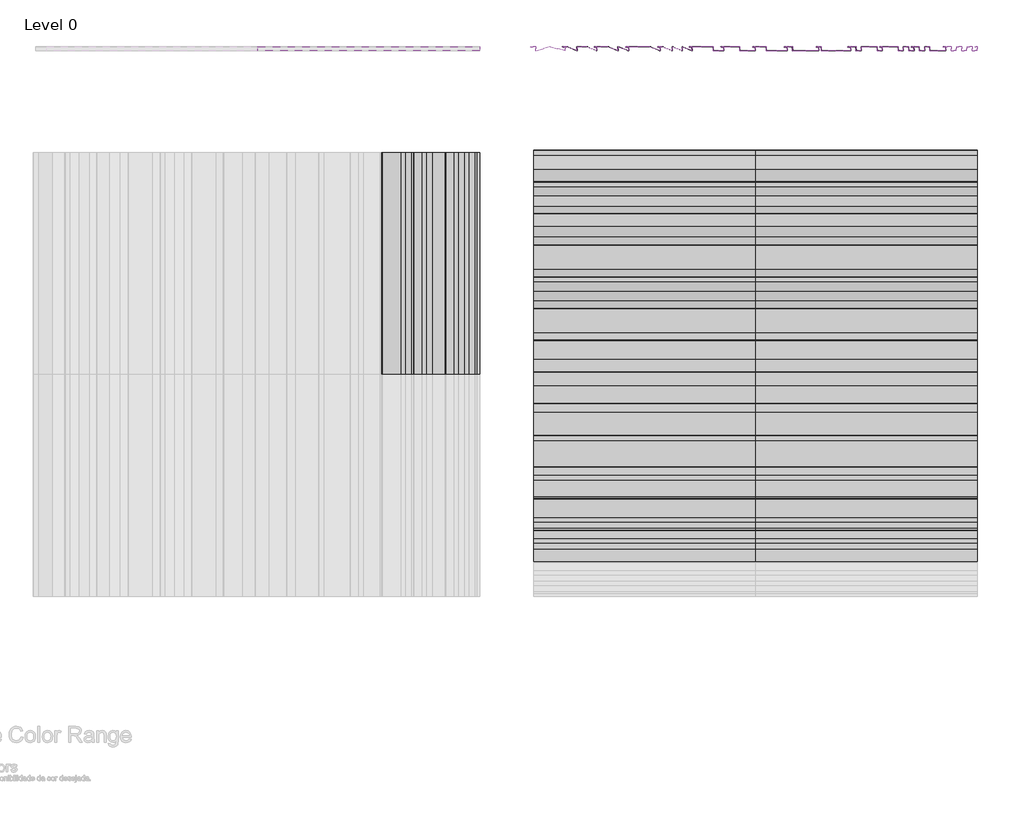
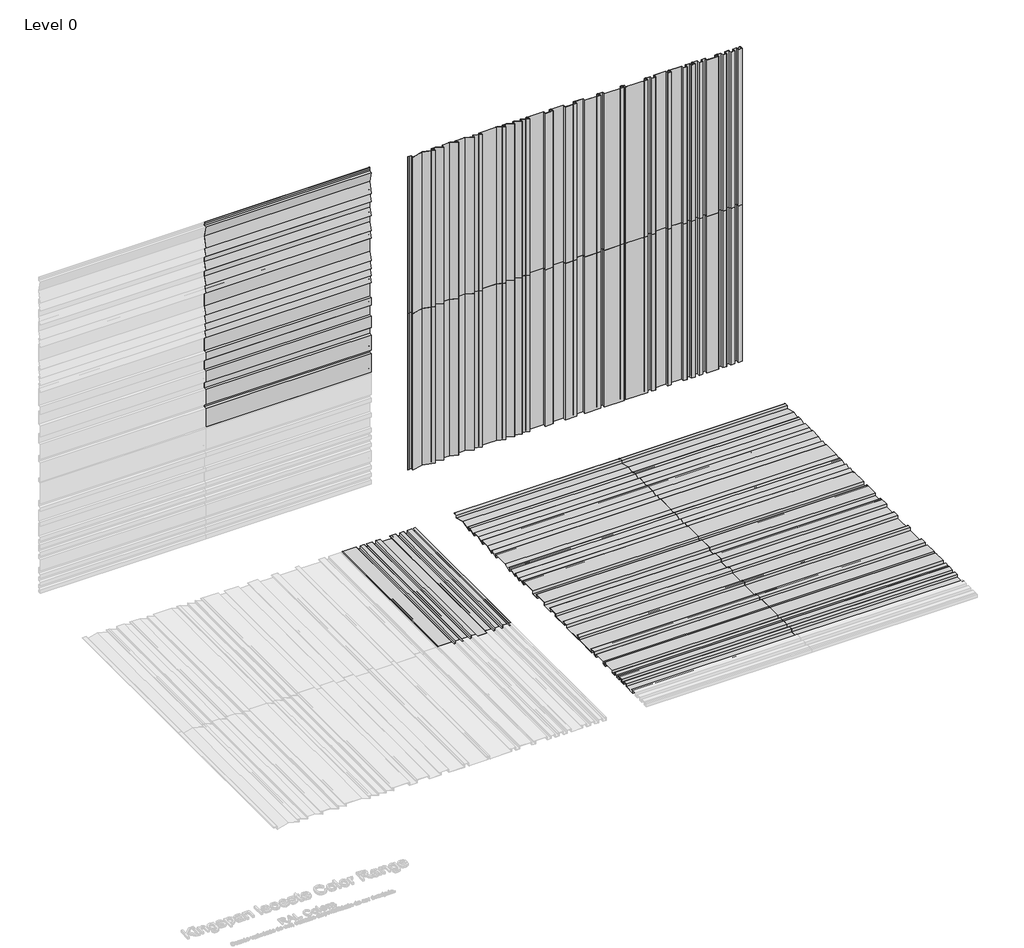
# One storey, part 2 of 2: 66 proxies.
"""IFC4 building model written with IfcOpenShell, lengths in millimetres."""

from ifc_helpers import new_model, si_unit, origin, place, context, project, spatial, transform, mapped, element, save
from components import mx1_0_standard_panel_ns_afae810e, mx1_0_standard_panel_ns_dc5b759f, mx10_0_standard_panel_ns_11ffd0d8, mx10_0_standard_panel_ns_1686077b, mx11_0_standard_panel_ns_7b6c7506, mx11_0_standard_panel_ns_816acfb4, mx2_0_standard_panel_ns_31f8ef59, mx2_0_standard_panel_ns_8073d0a4, mx3_0_standard_panel_ns_184cfff8, mx3_0_standard_panel_ns_9c684af8, mx4_0_standard_panel_ns_50b23f36, mx4_0_standard_panel_ns_1fe548eb, mx7_0_standard_panel_ns_a6cb7541, mx7_0_standard_panel_ns_ed4f422e, mx8_0_standard_panel_ns_97240bc2, mx8_0_standard_panel_ns_d4d0994c, mx9_0_standard_panel_ns_4979d104, mx9_0_standard_panel_ns_2f6deb61, ps1_0_standard_panel_ns_bf2b593f, ps1_0_standard_panel_ns_1c35b6c5, ps2_0_standard_panel_ns_86166604, ps2_0_standard_panel_ns_643a3163, ps3_0_standard_panel_ns_63d88878, ps3_0_standard_panel_ns_83fd88ae, ps4_0_standard_panel_ns_dd7b3ee9, ps4_0_standard_panel_ns_3b503408, ps9_0_standard_panel_ns_52e81e55, ps9_0_standard_panel_ns_6eacb7c6

model = new_model("IFC4")

# Units and contexts
model_context = context("Model", 3, world=origin())
ifc_project = project(units=[si_unit("LENGTHUNIT", "METRE", prefix="MILLI")], contexts=[model_context])

# Site, building, storey
site = spatial("IfcSite", under=ifc_project)
building = spatial("IfcBuilding", under=site)
storey = spatial("IfcBuildingStorey", under=building, Name="Level 0", Elevation=0.0)

# Proxies
placement = place(None, origin())
mx1_0_standard_panel_ns_shape = mx1_0_standard_panel_ns_afae810e(model_context)
element("IfcBuildingElementProxy", 1, Name="MX1.0 : Standard Panel_NS", ObjectType="MX1.0 : Standard Panel_NS", at=placement, inside=storey, context=model_context, shape_type="MappedRepresentation", body=[
    mapped(mx1_0_standard_panel_ns_shape, transform((5489.7088666, 5063.0274074, 0.0), x_axis=(0.0, 0.0, 1.0), y_axis=(-1.0, 0.0, 0.0), z_axis=(0.0, -1.0, 0.0))),
])
element("IfcBuildingElementProxy", 2, Name="MX1.0 : Standard Panel_NS", ObjectType="MX1.0 : Standard Panel_NS", at=placement, inside=storey, context=model_context, shape_type="MappedRepresentation", body=[
    mapped(mx1_0_standard_panel_ns_shape, transform((5489.7088666, 5063.0274074, 2100.0), x_axis=(0.0, 0.0, 1.0), y_axis=(-1.0, 0.0, 0.0), z_axis=(0.0, -1.0, 0.0))),
])
mx1_0_standard_panel_ns_2_shape = mx1_0_standard_panel_ns_dc5b759f(model_context)
element("IfcBuildingElementProxy", 3, Name="MX1.0 : Standard Panel_NS", ObjectType="MX1.0 : Standard Panel_NS", at=placement, inside=storey, context=model_context, shape_type="MappedRepresentation", body=[
    mapped(mx1_0_standard_panel_ns_2_shape, transform((782.2362705, 1958.3113453, 0.0), x_axis=(0.0, 1.0, 0.0), y_axis=(-1.0, 0.0, 0.0), z_axis=(0.0, 0.0, 1.0))),
])
mx10_0_standard_panel_ns_shape = mx10_0_standard_panel_ns_11ffd0d8(model_context)
element("IfcBuildingElementProxy", 4, Name="MX10.0 : Standard Panel_NS", ObjectType="MX10.0 : Standard Panel_NS", at=placement, inside=storey, context=model_context, shape_type="MappedRepresentation", body=[
    mapped(mx10_0_standard_panel_ns_shape, transform((3389.7088665, 5063.0274074, 0.0), x_axis=(0.0, 0.0, 1.0), y_axis=(-1.0, 0.0, 0.0), z_axis=(0.0, -1.0, 0.0))),
])
element("IfcBuildingElementProxy", 5, Name="MX10.0 : Standard Panel_NS", ObjectType="MX10.0 : Standard Panel_NS", at=placement, inside=storey, context=model_context, shape_type="MappedRepresentation", body=[
    mapped(mx10_0_standard_panel_ns_shape, transform((3389.7088665, 5063.0274074, 2100.0), x_axis=(0.0, 0.0, 1.0), y_axis=(-1.0, 0.0, 0.0), z_axis=(0.0, -1.0, 0.0))),
])
element("IfcBuildingElementProxy", 6, Name="MX10.0 : Standard Panel_NS", ObjectType="MX10.0 : Standard Panel_NS", at=placement, inside=storey, context=model_context, shape_type="MappedRepresentation", body=[
    mapped(mx10_0_standard_panel_ns_shape, transform((-1317.7637295, 5063.0274074, 2100.0), x_axis=(1.0, 0.0, 0.0), y_axis=(0.0, 0.0, 1.0), z_axis=(0.0, -1.0, 0.0))),
])
mx10_0_standard_panel_ns_2_shape = mx10_0_standard_panel_ns_1686077b(model_context)
element("IfcBuildingElementProxy", 7, Name="MX10.0 : Standard Panel_NS", ObjectType="MX10.0 : Standard Panel_NS", at=placement, inside=storey, context=model_context, shape_type="MappedRepresentation", body=[
    mapped(mx10_0_standard_panel_ns_2_shape, transform((1289.7088668, 1958.3113453, 0.0), x_axis=(1.0, 0.0, 0.0), y_axis=(0.0, 1.0, 0.0), z_axis=(0.0, 0.0, 1.0))),
])
element("IfcBuildingElementProxy", 8, Name="MX10.0 : Standard Panel_NS", ObjectType="MX10.0 : Standard Panel_NS", at=placement, inside=storey, context=model_context, shape_type="MappedRepresentation", body=[
    mapped(mx10_0_standard_panel_ns_2_shape, transform((3389.7088668, 1958.3113453, 0.0), x_axis=(1.0, 0.0, 0.0), y_axis=(0.0, 1.0, 0.0), z_axis=(0.0, 0.0, 1.0))),
])
mx11_0_standard_panel_ns_shape = mx11_0_standard_panel_ns_7b6c7506(model_context)
element("IfcBuildingElementProxy", 9, Name="MX11.0 : Standard Panel_NS", ObjectType="MX11.0 : Standard Panel_NS", at=placement, inside=storey, context=model_context, shape_type="MappedRepresentation", body=[
    mapped(mx11_0_standard_panel_ns_shape, transform((3089.7088665, 5063.0274074, 0.0), x_axis=(0.0, 0.0, 1.0), y_axis=(-1.0, 0.0, 0.0), z_axis=(0.0, -1.0, 0.0))),
])
element("IfcBuildingElementProxy", 10, Name="MX11.0 : Standard Panel_NS", ObjectType="MX11.0 : Standard Panel_NS", at=placement, inside=storey, context=model_context, shape_type="MappedRepresentation", body=[
    mapped(mx11_0_standard_panel_ns_shape, transform((3089.7088665, 5063.0274074, 2100.0), x_axis=(0.0, 0.0, 1.0), y_axis=(-1.0, 0.0, 0.0), z_axis=(0.0, -1.0, 0.0))),
])
element("IfcBuildingElementProxy", 11, Name="MX11.0 : Standard Panel_NS", ObjectType="MX11.0 : Standard Panel_NS", at=placement, inside=storey, context=model_context, shape_type="MappedRepresentation", body=[
    mapped(mx11_0_standard_panel_ns_shape, transform((-1317.7637295, 5063.0274074, 2400.0), x_axis=(1.0, 0.0, 0.0), y_axis=(0.0, 0.0, 1.0), z_axis=(0.0, -1.0, 0.0))),
])
mx11_0_standard_panel_ns_2_shape = mx11_0_standard_panel_ns_816acfb4(model_context)
element("IfcBuildingElementProxy", 12, Name="MX11.0 : Standard Panel_NS", ObjectType="MX11.0 : Standard Panel_NS", at=placement, inside=storey, context=model_context, shape_type="MappedRepresentation", body=[
    mapped(mx11_0_standard_panel_ns_2_shape, transform((1289.7088668, 2258.3113453, 0.0), x_axis=(1.0, 0.0, 0.0), y_axis=(0.0, 1.0, 0.0), z_axis=(0.0, 0.0, 1.0))),
])
element("IfcBuildingElementProxy", 13, Name="MX11.0 : Standard Panel_NS", ObjectType="MX11.0 : Standard Panel_NS", at=placement, inside=storey, context=model_context, shape_type="MappedRepresentation", body=[
    mapped(mx11_0_standard_panel_ns_2_shape, transform((3389.7088668, 2258.3113453, 0.0), x_axis=(1.0, 0.0, 0.0), y_axis=(0.0, 1.0, 0.0), z_axis=(0.0, 0.0, 1.0))),
])
mx2_0_standard_panel_ns_shape = mx2_0_standard_panel_ns_31f8ef59(model_context)
element("IfcBuildingElementProxy", 14, Name="MX2.0 : Standard Panel_NS", ObjectType="MX2.0 : Standard Panel_NS", at=placement, inside=storey, context=model_context, shape_type="MappedRepresentation", body=[
    mapped(mx2_0_standard_panel_ns_shape, transform((5189.7088665, 5063.0274074, 0.0), x_axis=(0.0, 0.0, 1.0), y_axis=(-1.0, 0.0, 0.0), z_axis=(0.0, -1.0, 0.0))),
])
element("IfcBuildingElementProxy", 15, Name="MX2.0 : Standard Panel_NS", ObjectType="MX2.0 : Standard Panel_NS", at=placement, inside=storey, context=model_context, shape_type="MappedRepresentation", body=[
    mapped(mx2_0_standard_panel_ns_shape, transform((5189.7088665, 5063.0274074, 2100.0), x_axis=(0.0, 0.0, 1.0), y_axis=(-1.0, 0.0, 0.0), z_axis=(0.0, -1.0, 0.0))),
])
mx2_0_standard_panel_ns_2_shape = mx2_0_standard_panel_ns_8073d0a4(model_context)
element("IfcBuildingElementProxy", 16, Name="MX2.0 : Standard Panel_NS", ObjectType="MX2.0 : Standard Panel_NS", at=placement, inside=storey, context=model_context, shape_type="MappedRepresentation", body=[
    mapped(mx2_0_standard_panel_ns_2_shape, transform((1289.7088668, 158.3113453, 0.0), x_axis=(1.0, 0.0, 0.0), y_axis=(0.0, 1.0, 0.0), z_axis=(0.0, 0.0, 1.0))),
])
element("IfcBuildingElementProxy", 17, Name="MX2.0 : Standard Panel_NS", ObjectType="MX2.0 : Standard Panel_NS", at=placement, inside=storey, context=model_context, shape_type="MappedRepresentation", body=[
    mapped(mx2_0_standard_panel_ns_2_shape, transform((482.2362703, 1958.3113453, 0.0), x_axis=(0.0, 1.0, 0.0), y_axis=(-1.0, 0.0, 0.0), z_axis=(0.0, 0.0, 1.0))),
])
element("IfcBuildingElementProxy", 18, Name="MX2.0 : Standard Panel_NS", ObjectType="MX2.0 : Standard Panel_NS", at=placement, inside=storey, context=model_context, shape_type="MappedRepresentation", body=[
    mapped(mx2_0_standard_panel_ns_2_shape, transform((3389.7088668, 158.3113453, 0.0), x_axis=(1.0, 0.0, 0.0), y_axis=(0.0, 1.0, 0.0), z_axis=(0.0, 0.0, 1.0))),
])
mx3_0_standard_panel_ns_shape = mx3_0_standard_panel_ns_184cfff8(model_context)
element("IfcBuildingElementProxy", 19, Name="MX3.0 : Standard Panel_NS", ObjectType="MX3.0 : Standard Panel_NS", at=placement, inside=storey, context=model_context, shape_type="MappedRepresentation", body=[
    mapped(mx3_0_standard_panel_ns_shape, transform((4889.7088665, 5063.0274074, 0.0), x_axis=(0.0, 0.0, 1.0), y_axis=(-1.0, 0.0, 0.0), z_axis=(0.0, -1.0, 0.0))),
])
element("IfcBuildingElementProxy", 20, Name="MX3.0 : Standard Panel_NS", ObjectType="MX3.0 : Standard Panel_NS", at=placement, inside=storey, context=model_context, shape_type="MappedRepresentation", body=[
    mapped(mx3_0_standard_panel_ns_shape, transform((4889.7088665, 5063.0274074, 2100.0), x_axis=(0.0, 0.0, 1.0), y_axis=(-1.0, 0.0, 0.0), z_axis=(0.0, -1.0, 0.0))),
])
mx3_0_standard_panel_ns_2_shape = mx3_0_standard_panel_ns_9c684af8(model_context)
element("IfcBuildingElementProxy", 21, Name="MX3.0 : Standard Panel_NS", ObjectType="MX3.0 : Standard Panel_NS", at=placement, inside=storey, context=model_context, shape_type="MappedRepresentation", body=[
    mapped(mx3_0_standard_panel_ns_2_shape, transform((1289.7088668, 458.3113453, 0.0), x_axis=(1.0, 0.0, 0.0), y_axis=(0.0, 1.0, 0.0), z_axis=(0.0, 0.0, 1.0))),
])
element("IfcBuildingElementProxy", 22, Name="MX3.0 : Standard Panel_NS", ObjectType="MX3.0 : Standard Panel_NS", at=placement, inside=storey, context=model_context, shape_type="MappedRepresentation", body=[
    mapped(mx3_0_standard_panel_ns_2_shape, transform((182.2362703, 1958.3113453, 0.0), x_axis=(0.0, 1.0, 0.0), y_axis=(-1.0, 0.0, 0.0), z_axis=(0.0, 0.0, 1.0))),
])
element("IfcBuildingElementProxy", 23, Name="MX3.0 : Standard Panel_NS", ObjectType="MX3.0 : Standard Panel_NS", at=placement, inside=storey, context=model_context, shape_type="MappedRepresentation", body=[
    mapped(mx3_0_standard_panel_ns_2_shape, transform((3389.7088668, 458.3113453, 0.0), x_axis=(1.0, 0.0, 0.0), y_axis=(0.0, 1.0, 0.0), z_axis=(0.0, 0.0, 1.0))),
])
mx4_0_standard_panel_ns_shape = mx4_0_standard_panel_ns_50b23f36(model_context)
element("IfcBuildingElementProxy", 24, Name="MX4.0 : Standard Panel_NS", ObjectType="MX4.0 : Standard Panel_NS", at=placement, inside=storey, context=model_context, shape_type="MappedRepresentation", body=[
    mapped(mx4_0_standard_panel_ns_shape, transform((4589.7088665, 5063.0274074, 0.0), x_axis=(0.0, 0.0, 1.0), y_axis=(-1.0, 0.0, 0.0), z_axis=(0.0, -1.0, 0.0))),
])
element("IfcBuildingElementProxy", 25, Name="MX4.0 : Standard Panel_NS", ObjectType="MX4.0 : Standard Panel_NS", at=placement, inside=storey, context=model_context, shape_type="MappedRepresentation", body=[
    mapped(mx4_0_standard_panel_ns_shape, transform((4589.7088665, 5063.0274074, 2100.0), x_axis=(0.0, 0.0, 1.0), y_axis=(-1.0, 0.0, 0.0), z_axis=(0.0, -1.0, 0.0))),
])
mx4_0_standard_panel_ns_2_shape = mx4_0_standard_panel_ns_1fe548eb(model_context)
element("IfcBuildingElementProxy", 26, Name="MX4.0 : Standard Panel_NS", ObjectType="MX4.0 : Standard Panel_NS", at=placement, inside=storey, context=model_context, shape_type="MappedRepresentation", body=[
    mapped(mx4_0_standard_panel_ns_2_shape, transform((1289.7088668, 758.3113453, 0.0), x_axis=(1.0, 0.0, 0.0), y_axis=(0.0, 1.0, 0.0), z_axis=(0.0, 0.0, 1.0))),
])
element("IfcBuildingElementProxy", 27, Name="MX4.0 : Standard Panel_NS", ObjectType="MX4.0 : Standard Panel_NS", at=placement, inside=storey, context=model_context, shape_type="MappedRepresentation", body=[
    mapped(mx4_0_standard_panel_ns_2_shape, transform((3389.7088668, 758.3113453, 0.0), x_axis=(1.0, 0.0, 0.0), y_axis=(0.0, 1.0, 0.0), z_axis=(0.0, 0.0, 1.0))),
])
mx7_0_standard_panel_ns_shape = mx7_0_standard_panel_ns_a6cb7541(model_context)
element("IfcBuildingElementProxy", 28, Name="MX7.0 : Standard Panel_NS", ObjectType="MX7.0 : Standard Panel_NS", at=placement, inside=storey, context=model_context, shape_type="MappedRepresentation", body=[
    mapped(mx7_0_standard_panel_ns_shape, transform((4289.7088665, 5063.0274074, 0.0), x_axis=(0.0, 0.0, 1.0), y_axis=(-1.0, 0.0, 0.0), z_axis=(0.0, -1.0, 0.0))),
])
element("IfcBuildingElementProxy", 29, Name="MX7.0 : Standard Panel_NS", ObjectType="MX7.0 : Standard Panel_NS", at=placement, inside=storey, context=model_context, shape_type="MappedRepresentation", body=[
    mapped(mx7_0_standard_panel_ns_shape, transform((4289.7088665, 5063.0274074, 2100.0), x_axis=(0.0, 0.0, 1.0), y_axis=(-1.0, 0.0, 0.0), z_axis=(0.0, -1.0, 0.0))),
])
mx7_0_standard_panel_ns_2_shape = mx7_0_standard_panel_ns_ed4f422e(model_context)
element("IfcBuildingElementProxy", 30, Name="MX7.0 : Standard Panel_NS", ObjectType="MX7.0 : Standard Panel_NS", at=placement, inside=storey, context=model_context, shape_type="MappedRepresentation", body=[
    mapped(mx7_0_standard_panel_ns_2_shape, transform((1289.7088668, 1058.3113453, 0.0), x_axis=(1.0, 0.0, 0.0), y_axis=(0.0, 1.0, 0.0), z_axis=(0.0, 0.0, 1.0))),
])
element("IfcBuildingElementProxy", 31, Name="MX7.0 : Standard Panel_NS", ObjectType="MX7.0 : Standard Panel_NS", at=placement, inside=storey, context=model_context, shape_type="MappedRepresentation", body=[
    mapped(mx7_0_standard_panel_ns_2_shape, transform((3389.7088668, 1058.3113453, 0.0), x_axis=(1.0, 0.0, 0.0), y_axis=(0.0, 1.0, 0.0), z_axis=(0.0, 0.0, 1.0))),
])
mx8_0_standard_panel_ns_shape = mx8_0_standard_panel_ns_97240bc2(model_context)
element("IfcBuildingElementProxy", 32, Name="MX8.0 : Standard Panel_NS", ObjectType="MX8.0 : Standard Panel_NS", at=placement, inside=storey, context=model_context, shape_type="MappedRepresentation", body=[
    mapped(mx8_0_standard_panel_ns_shape, transform((-1317.7637295, 5063.0274074, 1500.0), x_axis=(1.0, 0.0, 0.0), y_axis=(0.0, 0.0, 1.0), z_axis=(0.0, -1.0, 0.0))),
])
element("IfcBuildingElementProxy", 33, Name="MX8.0 : Standard Panel_NS", ObjectType="MX8.0 : Standard Panel_NS", at=placement, inside=storey, context=model_context, shape_type="MappedRepresentation", body=[
    mapped(mx8_0_standard_panel_ns_shape, transform((3989.7088665, 5063.0274074, 0.0), x_axis=(0.0, 0.0, 1.0), y_axis=(-1.0, 0.0, 0.0), z_axis=(0.0, -1.0, 0.0))),
])
element("IfcBuildingElementProxy", 34, Name="MX8.0 : Standard Panel_NS", ObjectType="MX8.0 : Standard Panel_NS", at=placement, inside=storey, context=model_context, shape_type="MappedRepresentation", body=[
    mapped(mx8_0_standard_panel_ns_shape, transform((3989.7088665, 5063.0274074, 2100.0), x_axis=(0.0, 0.0, 1.0), y_axis=(-1.0, 0.0, 0.0), z_axis=(0.0, -1.0, 0.0))),
])
mx8_0_standard_panel_ns_2_shape = mx8_0_standard_panel_ns_d4d0994c(model_context)
element("IfcBuildingElementProxy", 35, Name="MX8.0 : Standard Panel_NS", ObjectType="MX8.0 : Standard Panel_NS", at=placement, inside=storey, context=model_context, shape_type="MappedRepresentation", body=[
    mapped(mx8_0_standard_panel_ns_2_shape, transform((1289.7088668, 1358.3113453, 0.0), x_axis=(1.0, 0.0, 0.0), y_axis=(0.0, 1.0, 0.0), z_axis=(0.0, 0.0, 1.0))),
])
element("IfcBuildingElementProxy", 36, Name="MX8.0 : Standard Panel_NS", ObjectType="MX8.0 : Standard Panel_NS", at=placement, inside=storey, context=model_context, shape_type="MappedRepresentation", body=[
    mapped(mx8_0_standard_panel_ns_2_shape, transform((3389.7088668, 1358.3113453, 0.0), x_axis=(1.0, 0.0, 0.0), y_axis=(0.0, 1.0, 0.0), z_axis=(0.0, 0.0, 1.0))),
])
mx9_0_standard_panel_ns_shape = mx9_0_standard_panel_ns_4979d104(model_context)
element("IfcBuildingElementProxy", 37, Name="MX9.0 : Standard Panel_NS", ObjectType="MX9.0 : Standard Panel_NS", at=placement, inside=storey, context=model_context, shape_type="MappedRepresentation", body=[
    mapped(mx9_0_standard_panel_ns_shape, transform((3689.7088665, 5063.0274074, 0.0), x_axis=(0.0, 0.0, 1.0), y_axis=(-1.0, 0.0, 0.0), z_axis=(0.0, -1.0, 0.0))),
])
element("IfcBuildingElementProxy", 38, Name="MX9.0 : Standard Panel_NS", ObjectType="MX9.0 : Standard Panel_NS", at=placement, inside=storey, context=model_context, shape_type="MappedRepresentation", body=[
    mapped(mx9_0_standard_panel_ns_shape, transform((3689.7088665, 5063.0274074, 2100.0), x_axis=(0.0, 0.0, 1.0), y_axis=(-1.0, 0.0, 0.0), z_axis=(0.0, -1.0, 0.0))),
])
element("IfcBuildingElementProxy", 39, Name="MX9.0 : Standard Panel_NS", ObjectType="MX9.0 : Standard Panel_NS", at=placement, inside=storey, context=model_context, shape_type="MappedRepresentation", body=[
    mapped(mx9_0_standard_panel_ns_shape, transform((-1317.7637295, 5063.0274074, 1800.0), x_axis=(1.0, 0.0, 0.0), y_axis=(0.0, 0.0, 1.0), z_axis=(0.0, -1.0, 0.0))),
])
mx9_0_standard_panel_ns_2_shape = mx9_0_standard_panel_ns_2f6deb61(model_context)
element("IfcBuildingElementProxy", 40, Name="MX9.0 : Standard Panel_NS", ObjectType="MX9.0 : Standard Panel_NS", at=placement, inside=storey, context=model_context, shape_type="MappedRepresentation", body=[
    mapped(mx9_0_standard_panel_ns_2_shape, transform((1289.7088668, 1658.3113453, 0.0), x_axis=(1.0, 0.0, 0.0), y_axis=(0.0, 1.0, 0.0), z_axis=(0.0, 0.0, 1.0))),
])
element("IfcBuildingElementProxy", 41, Name="MX9.0 : Standard Panel_NS", ObjectType="MX9.0 : Standard Panel_NS", at=placement, inside=storey, context=model_context, shape_type="MappedRepresentation", body=[
    mapped(mx9_0_standard_panel_ns_2_shape, transform((3389.7088668, 1658.3113453, 0.0), x_axis=(1.0, 0.0, 0.0), y_axis=(0.0, 1.0, 0.0), z_axis=(0.0, 0.0, 1.0))),
])
ps1_0_standard_panel_ns_shape = ps1_0_standard_panel_ns_bf2b593f(model_context)
element("IfcBuildingElementProxy", 42, Name="PS1.0 : Standard Panel_NS", ObjectType="PS1.0 : Standard Panel_NS", at=placement, inside=storey, context=model_context, shape_type="MappedRepresentation", body=[
    mapped(ps1_0_standard_panel_ns_shape, transform((2789.7088665, 5063.0274074, 0.0), x_axis=(0.0, 0.0, 1.0), y_axis=(-1.0, 0.0, 0.0), z_axis=(0.0, -1.0, 0.0))),
])
element("IfcBuildingElementProxy", 43, Name="PS1.0 : Standard Panel_NS", ObjectType="PS1.0 : Standard Panel_NS", at=placement, inside=storey, context=model_context, shape_type="MappedRepresentation", body=[
    mapped(ps1_0_standard_panel_ns_shape, transform((2789.7088665, 5063.0274074, 2100.0), x_axis=(0.0, 0.0, 1.0), y_axis=(-1.0, 0.0, 0.0), z_axis=(0.0, -1.0, 0.0))),
])
element("IfcBuildingElementProxy", 44, Name="PS1.0 : Standard Panel_NS", ObjectType="PS1.0 : Standard Panel_NS", at=placement, inside=storey, context=model_context, shape_type="MappedRepresentation", body=[
    mapped(ps1_0_standard_panel_ns_shape, transform((-1317.7637295, 5063.0274074, 2700.0), x_axis=(1.0, 0.0, 0.0), y_axis=(0.0, 0.0, 1.0), z_axis=(0.0, -1.0, 0.0))),
])
ps1_0_standard_panel_ns_2_shape = ps1_0_standard_panel_ns_1c35b6c5(model_context)
element("IfcBuildingElementProxy", 45, Name="PS1.0 : Standard Panel_NS", ObjectType="PS1.0 : Standard Panel_NS", at=placement, inside=storey, context=model_context, shape_type="MappedRepresentation", body=[
    mapped(ps1_0_standard_panel_ns_2_shape, transform((1289.7088668, 2558.3113453, 0.0), x_axis=(1.0, 0.0, 0.0), y_axis=(0.0, 1.0, 0.0), z_axis=(0.0, 0.0, 1.0))),
])
element("IfcBuildingElementProxy", 46, Name="PS1.0 : Standard Panel_NS", ObjectType="PS1.0 : Standard Panel_NS", at=placement, inside=storey, context=model_context, shape_type="MappedRepresentation", body=[
    mapped(ps1_0_standard_panel_ns_2_shape, transform((3389.7088668, 2558.3113453, 0.0), x_axis=(1.0, 0.0, 0.0), y_axis=(0.0, 1.0, 0.0), z_axis=(0.0, 0.0, 1.0))),
])
ps2_0_standard_panel_ns_shape = ps2_0_standard_panel_ns_86166604(model_context)
element("IfcBuildingElementProxy", 47, Name="PS2.0 : Standard Panel_NS", ObjectType="PS2.0 : Standard Panel_NS", at=placement, inside=storey, context=model_context, shape_type="MappedRepresentation", body=[
    mapped(ps2_0_standard_panel_ns_shape, transform((2489.7088665, 5063.0274074, 0.0), x_axis=(0.0, 0.0, 1.0), y_axis=(-1.0, 0.0, 0.0), z_axis=(0.0, -1.0, 0.0))),
])
element("IfcBuildingElementProxy", 48, Name="PS2.0 : Standard Panel_NS", ObjectType="PS2.0 : Standard Panel_NS", at=placement, inside=storey, context=model_context, shape_type="MappedRepresentation", body=[
    mapped(ps2_0_standard_panel_ns_shape, transform((2489.7088665, 5063.0274074, 2100.0), x_axis=(0.0, 0.0, 1.0), y_axis=(-1.0, 0.0, 0.0), z_axis=(0.0, -1.0, 0.0))),
])
element("IfcBuildingElementProxy", 49, Name="PS2.0 : Standard Panel_NS", ObjectType="PS2.0 : Standard Panel_NS", at=placement, inside=storey, context=model_context, shape_type="MappedRepresentation", body=[
    mapped(ps2_0_standard_panel_ns_shape, transform((-1317.7637295, 5063.0274074, 3000.0), x_axis=(1.0, 0.0, 0.0), y_axis=(0.0, 0.0, 1.0), z_axis=(0.0, -1.0, 0.0))),
])
ps2_0_standard_panel_ns_2_shape = ps2_0_standard_panel_ns_643a3163(model_context)
element("IfcBuildingElementProxy", 50, Name="PS2.0 : Standard Panel_NS", ObjectType="PS2.0 : Standard Panel_NS", at=placement, inside=storey, context=model_context, shape_type="MappedRepresentation", body=[
    mapped(ps2_0_standard_panel_ns_2_shape, transform((1289.7088668, 2858.3113453, 0.0), x_axis=(1.0, 0.0, 0.0), y_axis=(0.0, 1.0, 0.0), z_axis=(0.0, 0.0, 1.0))),
])
element("IfcBuildingElementProxy", 51, Name="PS2.0 : Standard Panel_NS", ObjectType="PS2.0 : Standard Panel_NS", at=placement, inside=storey, context=model_context, shape_type="MappedRepresentation", body=[
    mapped(ps2_0_standard_panel_ns_2_shape, transform((3389.7088668, 2858.3113453, 0.0), x_axis=(1.0, 0.0, 0.0), y_axis=(0.0, 1.0, 0.0), z_axis=(0.0, 0.0, 1.0))),
])
ps3_0_standard_panel_ns_shape = ps3_0_standard_panel_ns_63d88878(model_context)
element("IfcBuildingElementProxy", 52, Name="PS3.0 : Standard Panel_NS", ObjectType="PS3.0 : Standard Panel_NS", at=placement, inside=storey, context=model_context, shape_type="MappedRepresentation", body=[
    mapped(ps3_0_standard_panel_ns_shape, transform((2189.7088665, 5063.0274074, 0.0), x_axis=(0.0, 0.0, 1.0), y_axis=(-1.0, 0.0, 0.0), z_axis=(0.0, -1.0, 0.0))),
])
element("IfcBuildingElementProxy", 53, Name="PS3.0 : Standard Panel_NS", ObjectType="PS3.0 : Standard Panel_NS", at=placement, inside=storey, context=model_context, shape_type="MappedRepresentation", body=[
    mapped(ps3_0_standard_panel_ns_shape, transform((2189.7088665, 5063.0274074, 2100.0), x_axis=(0.0, 0.0, 1.0), y_axis=(-1.0, 0.0, 0.0), z_axis=(0.0, -1.0, 0.0))),
])
element("IfcBuildingElementProxy", 54, Name="PS3.0 : Standard Panel_NS", ObjectType="PS3.0 : Standard Panel_NS", at=placement, inside=storey, context=model_context, shape_type="MappedRepresentation", body=[
    mapped(ps3_0_standard_panel_ns_shape, transform((-1317.7637295, 5063.0274074, 3300.0), x_axis=(1.0, 0.0, 0.0), y_axis=(0.0, 0.0, 1.0), z_axis=(0.0, -1.0, 0.0))),
])
ps3_0_standard_panel_ns_2_shape = ps3_0_standard_panel_ns_83fd88ae(model_context)
element("IfcBuildingElementProxy", 55, Name="PS3.0 : Standard Panel_NS", ObjectType="PS3.0 : Standard Panel_NS", at=placement, inside=storey, context=model_context, shape_type="MappedRepresentation", body=[
    mapped(ps3_0_standard_panel_ns_2_shape, transform((1289.7088668, 3158.3113453, 0.0), x_axis=(1.0, 0.0, 0.0), y_axis=(0.0, 1.0, 0.0), z_axis=(0.0, 0.0, 1.0))),
])
element("IfcBuildingElementProxy", 56, Name="PS3.0 : Standard Panel_NS", ObjectType="PS3.0 : Standard Panel_NS", at=placement, inside=storey, context=model_context, shape_type="MappedRepresentation", body=[
    mapped(ps3_0_standard_panel_ns_2_shape, transform((3389.7088668, 3158.3113453, 0.0), x_axis=(1.0, 0.0, 0.0), y_axis=(0.0, 1.0, 0.0), z_axis=(0.0, 0.0, 1.0))),
])
ps4_0_standard_panel_ns_shape = ps4_0_standard_panel_ns_dd7b3ee9(model_context)
element("IfcBuildingElementProxy", 57, Name="PS4.0 : Standard Panel_NS", ObjectType="PS4.0 : Standard Panel_NS", at=placement, inside=storey, context=model_context, shape_type="MappedRepresentation", body=[
    mapped(ps4_0_standard_panel_ns_shape, transform((1889.7088665, 5063.0274074, 0.0), x_axis=(0.0, 0.0, 1.0), y_axis=(-1.0, 0.0, 0.0), z_axis=(0.0, -1.0, 0.0))),
])
element("IfcBuildingElementProxy", 58, Name="PS4.0 : Standard Panel_NS", ObjectType="PS4.0 : Standard Panel_NS", at=placement, inside=storey, context=model_context, shape_type="MappedRepresentation", body=[
    mapped(ps4_0_standard_panel_ns_shape, transform((1889.7088665, 5063.0274074, 2100.0), x_axis=(0.0, 0.0, 1.0), y_axis=(-1.0, 0.0, 0.0), z_axis=(0.0, -1.0, 0.0))),
])
element("IfcBuildingElementProxy", 59, Name="PS4.0 : Standard Panel_NS", ObjectType="PS4.0 : Standard Panel_NS", at=placement, inside=storey, context=model_context, shape_type="MappedRepresentation", body=[
    mapped(ps4_0_standard_panel_ns_shape, transform((-1317.7637295, 5063.0274074, 3600.0), x_axis=(1.0, 0.0, 0.0), y_axis=(0.0, 0.0, 1.0), z_axis=(0.0, -1.0, 0.0))),
])
ps4_0_standard_panel_ns_2_shape = ps4_0_standard_panel_ns_3b503408(model_context)
element("IfcBuildingElementProxy", 60, Name="PS4.0 : Standard Panel_NS", ObjectType="PS4.0 : Standard Panel_NS", at=placement, inside=storey, context=model_context, shape_type="MappedRepresentation", body=[
    mapped(ps4_0_standard_panel_ns_2_shape, transform((1289.7088668, 3458.3113453, 0.0), x_axis=(1.0, 0.0, 0.0), y_axis=(0.0, 1.0, 0.0), z_axis=(0.0, 0.0, 1.0))),
])
element("IfcBuildingElementProxy", 61, Name="PS4.0 : Standard Panel_NS", ObjectType="PS4.0 : Standard Panel_NS", at=placement, inside=storey, context=model_context, shape_type="MappedRepresentation", body=[
    mapped(ps4_0_standard_panel_ns_2_shape, transform((3389.7088668, 3458.3113453, 0.0), x_axis=(1.0, 0.0, 0.0), y_axis=(0.0, 1.0, 0.0), z_axis=(0.0, 0.0, 1.0))),
])
ps9_0_standard_panel_ns_shape = ps9_0_standard_panel_ns_52e81e55(model_context)
element("IfcBuildingElementProxy", 62, Name="PS9.0 : Standard Panel_NS", ObjectType="PS9.0 : Standard Panel_NS", at=placement, inside=storey, context=model_context, shape_type="MappedRepresentation", body=[
    mapped(ps9_0_standard_panel_ns_shape, transform((1289.7088668, 3758.3113453, 0.0), x_axis=(1.0, 0.0, 0.0), y_axis=(0.0, 1.0, 0.0), z_axis=(0.0, 0.0, 1.0))),
])
element("IfcBuildingElementProxy", 63, Name="PS9.0 : Standard Panel_NS", ObjectType="PS9.0 : Standard Panel_NS", at=placement, inside=storey, context=model_context, shape_type="MappedRepresentation", body=[
    mapped(ps9_0_standard_panel_ns_shape, transform((3389.7088668, 3758.3113453, 0.0), x_axis=(1.0, 0.0, 0.0), y_axis=(0.0, 1.0, 0.0), z_axis=(0.0, 0.0, 1.0))),
])
ps9_0_standard_panel_ns_2_shape = ps9_0_standard_panel_ns_6eacb7c6(model_context)
element("IfcBuildingElementProxy", 64, Name="PS9.0 : Standard Panel_NS", ObjectType="PS9.0 : Standard Panel_NS", at=placement, inside=storey, context=model_context, shape_type="MappedRepresentation", body=[
    mapped(ps9_0_standard_panel_ns_2_shape, transform((1589.7088666, 5063.0274074, 0.0), x_axis=(0.0, 0.0, 1.0), y_axis=(-1.0, 0.0, 0.0), z_axis=(0.0, -1.0, 0.0))),
])
element("IfcBuildingElementProxy", 65, Name="PS9.0 : Standard Panel_NS", ObjectType="PS9.0 : Standard Panel_NS", at=placement, inside=storey, context=model_context, shape_type="MappedRepresentation", body=[
    mapped(ps9_0_standard_panel_ns_2_shape, transform((1589.7088666, 5063.0274074, 2100.0), x_axis=(0.0, 0.0, 1.0), y_axis=(-1.0, 0.0, 0.0), z_axis=(0.0, -1.0, 0.0))),
])
element("IfcBuildingElementProxy", 66, Name="PS9.0 : Standard Panel_NS", ObjectType="PS9.0 : Standard Panel_NS", at=placement, inside=storey, context=model_context, shape_type="MappedRepresentation", body=[
    mapped(ps9_0_standard_panel_ns_2_shape, transform((-1317.7637295, 5063.0274074, 3900.0), x_axis=(1.0, 0.0, 0.0), y_axis=(0.0, 0.0, 1.0), z_axis=(0.0, -1.0, 0.0))),
])

save(model, "model.ifc")
